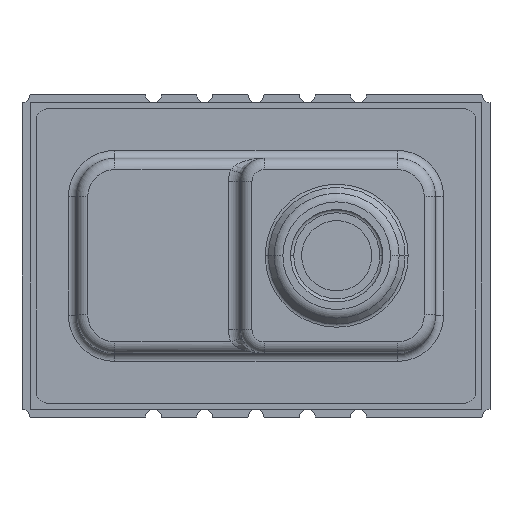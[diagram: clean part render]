
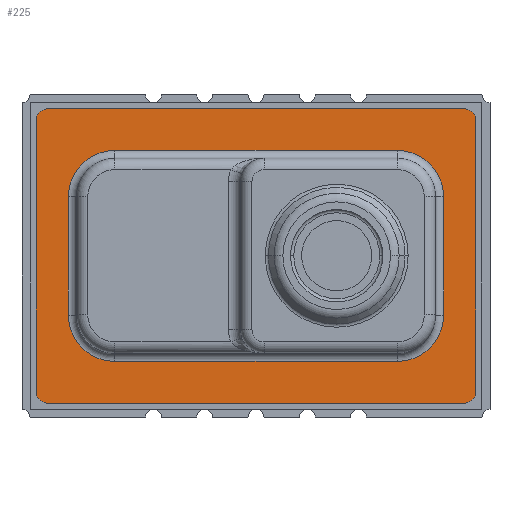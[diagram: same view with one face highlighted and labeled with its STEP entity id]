
A CAD part, top view. The second image highlights one B-rep face of the part: STEP entity #225.
In plain terms, the highlighted planar face has unit normal (0, 0, 1).
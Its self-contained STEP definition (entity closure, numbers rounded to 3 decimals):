
#6 = ORIENTED_EDGE ( 'NONE', *, *, #1646, .T. ) ;
#8 = ORIENTED_EDGE ( 'NONE', *, *, #3025, .T. ) ;
#13 = VERTEX_POINT ( 'NONE', #1352 ) ;
#56 = DIRECTION ( 'NONE',  ( 0., 1., 0. ) ) ;
#71 = CARTESIAN_POINT ( 'NONE',  ( -5.15, -3.65, 0.18 ) ) ;
#106 = ORIENTED_EDGE ( 'NONE', *, *, #3961, .T. ) ;
#138 = EDGE_CURVE ( 'NONE', #223, #1794, #3545, .T. ) ;
#163 = CARTESIAN_POINT ( 'NONE',  ( -5.15, -3.35, 0.18 ) ) ;
#205 = CARTESIAN_POINT ( 'NONE',  ( -5.45, -3.65, 0.18 ) ) ;
#212 = EDGE_CURVE ( 'NONE', #1794, #4700, #1451, .T. ) ;
#223 = VERTEX_POINT ( 'NONE', #426 ) ;
#225 = ADVANCED_FACE ( 'NONE', ( #4262, #4009 ), #1916, .T. ) ;
#236 = EDGE_CURVE ( 'NONE', #3917, #4082, #491, .T. ) ;
#295 = EDGE_CURVE ( 'NONE', #4082, #4233, #3190, .T. ) ;
#409 = AXIS2_PLACEMENT_3D ( 'NONE', #3450, #1016, #1110 ) ;
#426 = CARTESIAN_POINT ( 'NONE',  ( 4.65, 1.465, 0.18 ) ) ;
#430 = DIRECTION ( 'NONE',  ( 1., 0., 0. ) ) ;
#445 = EDGE_CURVE ( 'NONE', #1679, #13, #718, .T. ) ;
#477 = CARTESIAN_POINT ( 'NONE',  ( -3.5, -1.465, 0.18 ) ) ;
#491 = LINE ( 'NONE', #756, #1735 ) ;
#568 = DIRECTION ( 'NONE',  ( 1., 0., 0. ) ) ;
#576 = CARTESIAN_POINT ( 'NONE',  ( -5.45, 3.65, 0.18 ) ) ;
#671 = VERTEX_POINT ( 'NONE', #2174 ) ;
#698 = DIRECTION ( 'NONE',  ( 0., -1., 0. ) ) ;
#718 = LINE ( 'NONE', #576, #2303 ) ;
#756 = CARTESIAN_POINT ( 'NONE',  ( -5.45, 3.65, 0.18 ) ) ;
#807 = ORIENTED_EDGE ( 'NONE', *, *, #138, .T. ) ;
#828 = DIRECTION ( 'NONE',  ( 0., 0., 1. ) ) ;
#850 = ORIENTED_EDGE ( 'NONE', *, *, #4292, .T. ) ;
#851 = AXIS2_PLACEMENT_3D ( 'NONE', #4167, #4533, #568 ) ;
#912 = DIRECTION ( 'NONE',  ( 1., 0., 0. ) ) ;
#913 = ORIENTED_EDGE ( 'NONE', *, *, #295, .T. ) ;
#968 = EDGE_CURVE ( 'NONE', #4233, #2911, #3541, .T. ) ;
#1010 = DIRECTION ( 'NONE',  ( -1., 0., 0. ) ) ;
#1016 = DIRECTION ( 'NONE',  ( 0., 0., -1. ) ) ;
#1028 = CARTESIAN_POINT ( 'NONE',  ( 5.45, -3.35, 0.18 ) ) ;
#1098 = ORIENTED_EDGE ( 'NONE', *, *, #212, .T. ) ;
#1110 = DIRECTION ( 'NONE',  ( 1., 0., 0. ) ) ;
#1150 = ORIENTED_EDGE ( 'NONE', *, *, #4209, .T. ) ;
#1171 = CARTESIAN_POINT ( 'NONE',  ( 0., 2.615, 0.18 ) ) ;
#1175 = ORIENTED_EDGE ( 'NONE', *, *, #3055, .T. ) ;
#1197 = CARTESIAN_POINT ( 'NONE',  ( 3.5, -2.615, 0.18 ) ) ;
#1251 = ORIENTED_EDGE ( 'NONE', *, *, #2849, .T. ) ;
#1276 = LINE ( 'NONE', #2551, #1829 ) ;
#1337 = AXIS2_PLACEMENT_3D ( 'NONE', #477, #1963, #3357 ) ;
#1352 = CARTESIAN_POINT ( 'NONE',  ( -5.15, 3.65, 0.18 ) ) ;
#1372 = CIRCLE ( 'NONE', #1337, 1.15 ) ;
#1409 = EDGE_CURVE ( 'NONE', #2209, #1750, #1276, .T. ) ;
#1451 = CIRCLE ( 'NONE', #2468, 1.15 ) ;
#1471 = DIRECTION ( 'NONE',  ( 1., 0., 0. ) ) ;
#1526 = CARTESIAN_POINT ( 'NONE',  ( -5.15, 3.35, 0.18 ) ) ;
#1592 = CIRCLE ( 'NONE', #2077, 1.15 ) ;
#1646 = EDGE_CURVE ( 'NONE', #2911, #2209, #4361, .T. ) ;
#1679 = VERTEX_POINT ( 'NONE', #2360 ) ;
#1735 = VECTOR ( 'NONE', #3290, 1000. ) ;
#1750 = VERTEX_POINT ( 'NONE', #1942 ) ;
#1794 = VERTEX_POINT ( 'NONE', #1972 ) ;
#1801 = AXIS2_PLACEMENT_3D ( 'NONE', #163, #4537, #912 ) ;
#1829 = VECTOR ( 'NONE', #56, 1000. ) ;
#1843 = VERTEX_POINT ( 'NONE', #3440 ) ;
#1847 = VECTOR ( 'NONE', #698, 1000. ) ;
#1863 = EDGE_LOOP ( 'NONE', ( #1098, #2191, #1175, #1150, #850, #106, #1251, #807 ) ) ;
#1916 = PLANE ( 'NONE',  #3435 ) ;
#1942 = CARTESIAN_POINT ( 'NONE',  ( 5.45, 3.35, 0.18 ) ) ;
#1963 = DIRECTION ( 'NONE',  ( 0., 0., -1. ) ) ;
#1972 = CARTESIAN_POINT ( 'NONE',  ( 4.65, -1.465, 0.18 ) ) ;
#1979 = CARTESIAN_POINT ( 'NONE',  ( 5.15, -3.65, 0.18 ) ) ;
#2029 = ORIENTED_EDGE ( 'NONE', *, *, #236, .T. ) ;
#2077 = AXIS2_PLACEMENT_3D ( 'NONE', #2920, #2219, #1471 ) ;
#2142 = ORIENTED_EDGE ( 'NONE', *, *, #445, .T. ) ;
#2174 = CARTESIAN_POINT ( 'NONE',  ( -4.65, -1.465, 0.18 ) ) ;
#2191 = ORIENTED_EDGE ( 'NONE', *, *, #4054, .T. ) ;
#2209 = VERTEX_POINT ( 'NONE', #1028 ) ;
#2219 = DIRECTION ( 'NONE',  ( 0., 0., -1. ) ) ;
#2248 = DIRECTION ( 'NONE',  ( 0., 1., 0. ) ) ;
#2267 = DIRECTION ( 'NONE',  ( 1., 0., 0. ) ) ;
#2281 = DIRECTION ( 'NONE',  ( 1., 0., 0. ) ) ;
#2292 = AXIS2_PLACEMENT_3D ( 'NONE', #4438, #3329, #430 ) ;
#2303 = VECTOR ( 'NONE', #4620, 1000. ) ;
#2355 = VECTOR ( 'NONE', #2248, 1000. ) ;
#2360 = CARTESIAN_POINT ( 'NONE',  ( 5.15, 3.65, 0.18 ) ) ;
#2423 = CARTESIAN_POINT ( 'NONE',  ( -3.5, 2.615, 0.18 ) ) ;
#2468 = AXIS2_PLACEMENT_3D ( 'NONE', #4435, #4066, #2281 ) ;
#2477 = VERTEX_POINT ( 'NONE', #2423 ) ;
#2524 = VERTEX_POINT ( 'NONE', #3495 ) ;
#2551 = CARTESIAN_POINT ( 'NONE',  ( 5.45, 3.65, 0.18 ) ) ;
#2849 = EDGE_CURVE ( 'NONE', #1843, #223, #1592, .T. ) ;
#2859 = ORIENTED_EDGE ( 'NONE', *, *, #4138, .T. ) ;
#2886 = ORIENTED_EDGE ( 'NONE', *, *, #1409, .T. ) ;
#2911 = VERTEX_POINT ( 'NONE', #1979 ) ;
#2920 = CARTESIAN_POINT ( 'NONE',  ( 3.5, 1.465, 0.18 ) ) ;
#2960 = CIRCLE ( 'NONE', #2292, 0.3 ) ;
#3015 = VECTOR ( 'NONE', #2267, 1000. ) ;
#3025 = EDGE_CURVE ( 'NONE', #13, #3917, #3077, .T. ) ;
#3055 = EDGE_CURVE ( 'NONE', #4278, #671, #1372, .T. ) ;
#3077 = CIRCLE ( 'NONE', #4175, 0.3 ) ;
#3190 = CIRCLE ( 'NONE', #1801, 0.3 ) ;
#3256 = EDGE_LOOP ( 'NONE', ( #2029, #913, #4514, #6, #2886, #2859, #2142, #8 ) ) ;
#3290 = DIRECTION ( 'NONE',  ( 0., -1., 0. ) ) ;
#3296 = VECTOR ( 'NONE', #3469, 1000. ) ;
#3329 = DIRECTION ( 'NONE',  ( 0., 0., 1. ) ) ;
#3357 = DIRECTION ( 'NONE',  ( 1., 0., 0. ) ) ;
#3421 = LINE ( 'NONE', #4672, #4546 ) ;
#3435 = AXIS2_PLACEMENT_3D ( 'NONE', #4419, #3720, #4486 ) ;
#3440 = CARTESIAN_POINT ( 'NONE',  ( 3.5, 2.615, 0.18 ) ) ;
#3450 = CARTESIAN_POINT ( 'NONE',  ( -3.5, 1.465, 0.18 ) ) ;
#3469 = DIRECTION ( 'NONE',  ( 1., 0., 0. ) ) ;
#3478 = CIRCLE ( 'NONE', #409, 1.15 ) ;
#3495 = CARTESIAN_POINT ( 'NONE',  ( -4.65, 1.465, 0.18 ) ) ;
#3541 = LINE ( 'NONE', #205, #3296 ) ;
#3545 = LINE ( 'NONE', #3619, #1847 ) ;
#3619 = CARTESIAN_POINT ( 'NONE',  ( 4.65, 0., 0.18 ) ) ;
#3720 = DIRECTION ( 'NONE',  ( 0., 0., 1. ) ) ;
#3785 = CARTESIAN_POINT ( 'NONE',  ( -3.5, -2.615, 0.18 ) ) ;
#3917 = VERTEX_POINT ( 'NONE', #3951 ) ;
#3943 = CARTESIAN_POINT ( 'NONE',  ( -5.45, -3.35, 0.18 ) ) ;
#3951 = CARTESIAN_POINT ( 'NONE',  ( -5.45, 3.35, 0.18 ) ) ;
#3961 = EDGE_CURVE ( 'NONE', #2477, #1843, #4189, .T. ) ;
#4009 = FACE_OUTER_BOUND ( 'NONE', #3256, .T. ) ;
#4054 = EDGE_CURVE ( 'NONE', #4700, #4278, #3421, .T. ) ;
#4066 = DIRECTION ( 'NONE',  ( 0., 0., -1. ) ) ;
#4082 = VERTEX_POINT ( 'NONE', #3943 ) ;
#4138 = EDGE_CURVE ( 'NONE', #1750, #1679, #2960, .T. ) ;
#4167 = CARTESIAN_POINT ( 'NONE',  ( 5.15, -3.35, 0.18 ) ) ;
#4175 = AXIS2_PLACEMENT_3D ( 'NONE', #1526, #828, #4479 ) ;
#4189 = LINE ( 'NONE', #1171, #3015 ) ;
#4209 = EDGE_CURVE ( 'NONE', #671, #2524, #4423, .T. ) ;
#4233 = VERTEX_POINT ( 'NONE', #71 ) ;
#4262 = FACE_BOUND ( 'NONE', #1863, .T. ) ;
#4278 = VERTEX_POINT ( 'NONE', #3785 ) ;
#4292 = EDGE_CURVE ( 'NONE', #2524, #2477, #3478, .T. ) ;
#4361 = CIRCLE ( 'NONE', #851, 0.3 ) ;
#4419 = CARTESIAN_POINT ( 'NONE',  ( 0., 0., 0.18 ) ) ;
#4423 = LINE ( 'NONE', #4480, #2355 ) ;
#4435 = CARTESIAN_POINT ( 'NONE',  ( 3.5, -1.465, 0.18 ) ) ;
#4438 = CARTESIAN_POINT ( 'NONE',  ( 5.15, 3.35, 0.18 ) ) ;
#4479 = DIRECTION ( 'NONE',  ( 1., 0., 0. ) ) ;
#4480 = CARTESIAN_POINT ( 'NONE',  ( -4.65, 0., 0.18 ) ) ;
#4486 = DIRECTION ( 'NONE',  ( 1., 0., 0. ) ) ;
#4514 = ORIENTED_EDGE ( 'NONE', *, *, #968, .T. ) ;
#4533 = DIRECTION ( 'NONE',  ( 0., 0., 1. ) ) ;
#4537 = DIRECTION ( 'NONE',  ( 0., 0., 1. ) ) ;
#4546 = VECTOR ( 'NONE', #1010, 1000. ) ;
#4620 = DIRECTION ( 'NONE',  ( -1., 0., 0. ) ) ;
#4672 = CARTESIAN_POINT ( 'NONE',  ( 0., -2.615, 0.18 ) ) ;
#4700 = VERTEX_POINT ( 'NONE', #1197 ) ;
